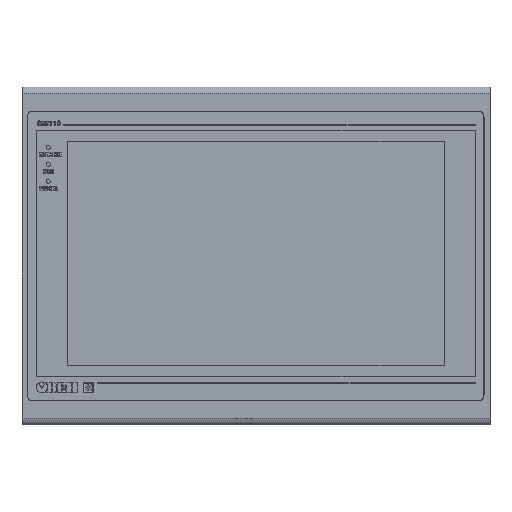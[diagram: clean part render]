
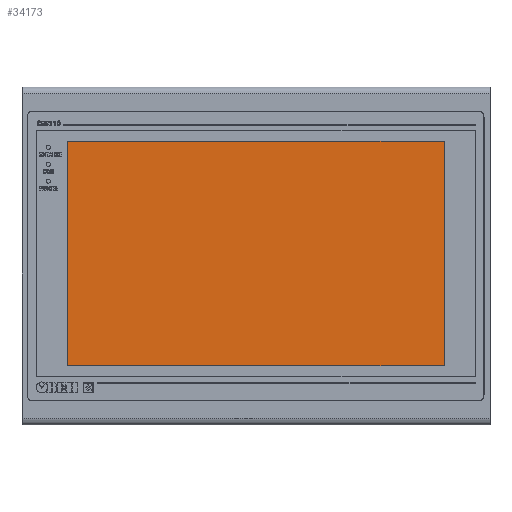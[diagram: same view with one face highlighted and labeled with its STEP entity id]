
A CAD part, top view. The second image highlights one B-rep face of the part: STEP entity #34173.
In plain terms, the highlighted planar face has unit normal (0, 0, 1).
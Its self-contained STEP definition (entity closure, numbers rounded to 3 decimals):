
#711 = ORIENTED_EDGE ( 'NONE', *, *, #37426, .T. ) ;
#2381 = FACE_OUTER_BOUND ( 'NONE', #10704, .T. ) ;
#2607 = VERTEX_POINT ( 'NONE', #20637 ) ;
#3330 = VECTOR ( 'NONE', #50001, 1000. ) ;
#8629 = LINE ( 'NONE', #31110, #25066 ) ;
#10704 = EDGE_LOOP ( 'NONE', ( #15891, #82859, #69135, #711 ) ) ;
#11985 = EDGE_CURVE ( 'NONE', #82665, #60969, #49473, .T. ) ;
#15891 = ORIENTED_EDGE ( 'NONE', *, *, #69739, .T. ) ;
#18039 = CARTESIAN_POINT ( 'NONE',  ( 246.65, 20.8, 0.4 ) ) ;
#20637 = CARTESIAN_POINT ( 'NONE',  ( 23.65, 20.8, 0.4 ) ) ;
#25066 = VECTOR ( 'NONE', #52582, 1000. ) ;
#26173 = DIRECTION ( 'NONE',  ( 0., 1., 0. ) ) ;
#31110 = CARTESIAN_POINT ( 'NONE',  ( 23.65, 153.8, 0.4 ) ) ;
#34173 = ADVANCED_FACE ( 'NONE', ( #2381 ), #50965, .T. ) ;
#37153 = DIRECTION ( 'NONE',  ( 0., 0., 1. ) ) ;
#37426 = EDGE_CURVE ( 'NONE', #60969, #81746, #8629, .T. ) ;
#47353 = CARTESIAN_POINT ( 'NONE',  ( 246.65, 153.8, 0.4 ) ) ;
#49473 = LINE ( 'NONE', #47353, #63680 ) ;
#50001 = DIRECTION ( 'NONE',  ( 0., -1., 0. ) ) ;
#50965 = PLANE ( 'NONE',  #59416 ) ;
#52139 = CARTESIAN_POINT ( 'NONE',  ( 23.65, 20.8, 0.4 ) ) ;
#52582 = DIRECTION ( 'NONE',  ( -1., 0., 0. ) ) ;
#54777 = VECTOR ( 'NONE', #59112, 1000. ) ;
#59112 = DIRECTION ( 'NONE',  ( 1., 0., 0. ) ) ;
#59176 = LINE ( 'NONE', #84844, #3330 ) ;
#59416 = AXIS2_PLACEMENT_3D ( 'NONE', #79054, #37153, #86097 ) ;
#60969 = VERTEX_POINT ( 'NONE', #78604 ) ;
#63680 = VECTOR ( 'NONE', #26173, 1000. ) ;
#69135 = ORIENTED_EDGE ( 'NONE', *, *, #11985, .T. ) ;
#69739 = EDGE_CURVE ( 'NONE', #81746, #2607, #59176, .T. ) ;
#78604 = CARTESIAN_POINT ( 'NONE',  ( 246.65, 153.8, 0.4 ) ) ;
#79054 = CARTESIAN_POINT ( 'NONE',  ( 0., 0., 0.4 ) ) ;
#81746 = VERTEX_POINT ( 'NONE', #82473 ) ;
#82473 = CARTESIAN_POINT ( 'NONE',  ( 23.65, 153.8, 0.4 ) ) ;
#82665 = VERTEX_POINT ( 'NONE', #18039 ) ;
#82859 = ORIENTED_EDGE ( 'NONE', *, *, #85772, .T. ) ;
#84844 = CARTESIAN_POINT ( 'NONE',  ( 23.65, 153.8, 0.4 ) ) ;
#85772 = EDGE_CURVE ( 'NONE', #2607, #82665, #89777, .T. ) ;
#86097 = DIRECTION ( 'NONE',  ( 1., 0., 0. ) ) ;
#89777 = LINE ( 'NONE', #52139, #54777 ) ;
